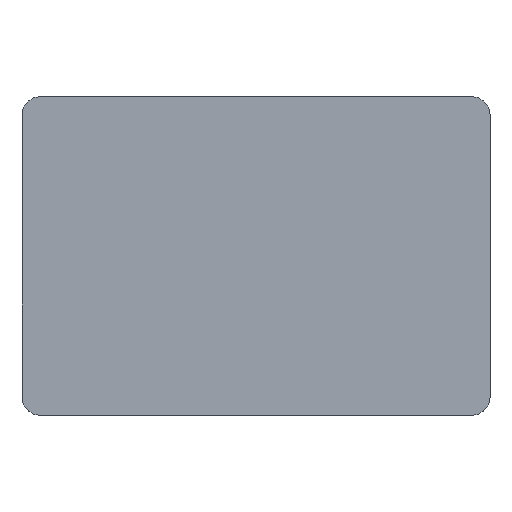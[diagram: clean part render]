
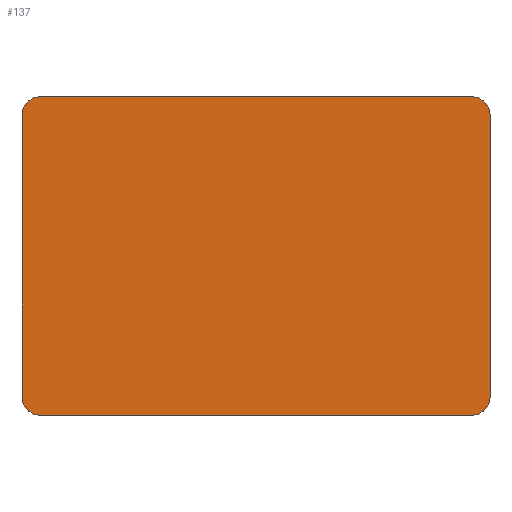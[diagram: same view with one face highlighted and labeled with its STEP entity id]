
A CAD part, top view. The second image highlights one B-rep face of the part: STEP entity #137.
In plain terms, the highlighted planar face has unit normal (0, 0, 1).
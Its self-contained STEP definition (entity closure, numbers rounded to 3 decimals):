
#21 = EDGE_CURVE('',#22,#24,#26,.T.);
#22 = VERTEX_POINT('',#23);
#23 = CARTESIAN_POINT('',(46.,-18.7,-42.8));
#24 = VERTEX_POINT('',#25);
#25 = CARTESIAN_POINT('',(46.,24.7,-42.8));
#26 = SURFACE_CURVE('',#27,(#31,#43),.PCURVE_S1.);
#27 = LINE('',#28,#29);
#28 = CARTESIAN_POINT('',(46.,-21.5,-42.8));
#29 = VECTOR('',#30,1.);
#30 = DIRECTION('',(-0.,1.,0.));
#31 = PCURVE('',#32,#37);
#32 = PLANE('',#33);
#33 = AXIS2_PLACEMENT_3D('',#34,#35,#36);
#34 = CARTESIAN_POINT('',(46.,-21.5,-45.8));
#35 = DIRECTION('',(-1.,-0.,0.));
#36 = DIRECTION('',(0.,0.,-1.));
#37 = DEFINITIONAL_REPRESENTATION('',(#38),#42);
#38 = LINE('',#39,#40);
#39 = CARTESIAN_POINT('',(-3.,-0.));
#40 = VECTOR('',#41,1.);
#41 = DIRECTION('',(-0.,-1.));
#42 = ( GEOMETRIC_REPRESENTATION_CONTEXT(2) 
PARAMETRIC_REPRESENTATION_CONTEXT() REPRESENTATION_CONTEXT('2D SPACE',''
  ) );
#43 = PCURVE('',#44,#49);
#44 = PLANE('',#45);
#45 = AXIS2_PLACEMENT_3D('',#46,#47,#48);
#46 = CARTESIAN_POINT('',(46.,-21.5,-42.8));
#47 = DIRECTION('',(0.,0.,1.));
#48 = DIRECTION('',(1.,0.,0.));
#49 = DEFINITIONAL_REPRESENTATION('',(#50),#54);
#50 = LINE('',#51,#52);
#51 = CARTESIAN_POINT('',(0.,-0.));
#52 = VECTOR('',#53,1.);
#53 = DIRECTION('',(-0.,1.));
#54 = ( GEOMETRIC_REPRESENTATION_CONTEXT(2) 
PARAMETRIC_REPRESENTATION_CONTEXT() REPRESENTATION_CONTEXT('2D SPACE',''
  ) );
#72 = CYLINDRICAL_SURFACE('',#73,2.8);
#73 = AXIS2_PLACEMENT_3D('',#74,#75,#76);
#74 = CARTESIAN_POINT('',(43.2,-18.7,-45.8));
#75 = DIRECTION('',(-0.,-0.,1.));
#76 = DIRECTION('',(1.,-0.,0.));
#126 = CYLINDRICAL_SURFACE('',#127,2.8);
#127 = AXIS2_PLACEMENT_3D('',#128,#129,#130);
#128 = CARTESIAN_POINT('',(43.2,24.7,-45.8));
#129 = DIRECTION('',(-0.,-0.,1.));
#130 = DIRECTION('',(1.,-0.,0.));
#137 = ADVANCED_FACE('',(#138),#44,.T.);
#138 = FACE_BOUND('',#139,.F.);
#139 = EDGE_LOOP('',(#140,#141,#169,#197,#226,#254,#287,#315));
#140 = ORIENTED_EDGE('',*,*,#21,.F.);
#141 = ORIENTED_EDGE('',*,*,#142,.T.);
#142 = EDGE_CURVE('',#22,#143,#145,.T.);
#143 = VERTEX_POINT('',#144);
#144 = CARTESIAN_POINT('',(43.2,-21.5,-42.8));
#145 = SURFACE_CURVE('',#146,(#151,#162),.PCURVE_S1.);
#146 = CIRCLE('',#147,2.8);
#147 = AXIS2_PLACEMENT_3D('',#148,#149,#150);
#148 = CARTESIAN_POINT('',(43.2,-18.7,-42.8));
#149 = DIRECTION('',(0.,0.,-1.));
#150 = DIRECTION('',(-0.,-1.,-0.));
#151 = PCURVE('',#44,#152);
#152 = DEFINITIONAL_REPRESENTATION('',(#153),#161);
#153 = ( BOUNDED_CURVE() B_SPLINE_CURVE(2,(#154,#155,#156,#157,#158,#159
,#160),.UNSPECIFIED.,.T.,.F.) B_SPLINE_CURVE_WITH_KNOTS((1,2,2,2,2,1),(
    -2.094,0.,2.094,4.189,6.283,
8.378),.UNSPECIFIED.) CURVE() GEOMETRIC_REPRESENTATION_ITEM() 
RATIONAL_B_SPLINE_CURVE((1.,0.5,1.,0.5,1.,0.5,1.)) REPRESENTATION_ITEM(
  '') );
#154 = CARTESIAN_POINT('',(-2.8,0.));
#155 = CARTESIAN_POINT('',(-7.65,0.));
#156 = CARTESIAN_POINT('',(-5.225,4.2));
#157 = CARTESIAN_POINT('',(-2.8,8.4));
#158 = CARTESIAN_POINT('',(-0.375,4.2));
#159 = CARTESIAN_POINT('',(2.05,0.));
#160 = CARTESIAN_POINT('',(-2.8,0.));
#161 = ( GEOMETRIC_REPRESENTATION_CONTEXT(2) 
PARAMETRIC_REPRESENTATION_CONTEXT() REPRESENTATION_CONTEXT('2D SPACE',''
  ) );
#162 = PCURVE('',#72,#163);
#163 = DEFINITIONAL_REPRESENTATION('',(#164),#168);
#164 = LINE('',#165,#166);
#165 = CARTESIAN_POINT('',(4.712,3.));
#166 = VECTOR('',#167,1.);
#167 = DIRECTION('',(-1.,0.));
#168 = ( GEOMETRIC_REPRESENTATION_CONTEXT(2) 
PARAMETRIC_REPRESENTATION_CONTEXT() REPRESENTATION_CONTEXT('2D SPACE',''
  ) );
#169 = ORIENTED_EDGE('',*,*,#170,.T.);
#170 = EDGE_CURVE('',#143,#171,#173,.T.);
#171 = VERTEX_POINT('',#172);
#172 = CARTESIAN_POINT('',(-23.2,-21.5,-42.8));
#173 = SURFACE_CURVE('',#174,(#178,#185),.PCURVE_S1.);
#174 = LINE('',#175,#176);
#175 = CARTESIAN_POINT('',(46.,-21.5,-42.8));
#176 = VECTOR('',#177,1.);
#177 = DIRECTION('',(-1.,-0.,0.));
#178 = PCURVE('',#44,#179);
#179 = DEFINITIONAL_REPRESENTATION('',(#180),#184);
#180 = LINE('',#181,#182);
#181 = CARTESIAN_POINT('',(0.,-0.));
#182 = VECTOR('',#183,1.);
#183 = DIRECTION('',(-1.,0.));
#184 = ( GEOMETRIC_REPRESENTATION_CONTEXT(2) 
PARAMETRIC_REPRESENTATION_CONTEXT() REPRESENTATION_CONTEXT('2D SPACE',''
  ) );
#185 = PCURVE('',#186,#191);
#186 = PLANE('',#187);
#187 = AXIS2_PLACEMENT_3D('',#188,#189,#190);
#188 = CARTESIAN_POINT('',(46.,-21.5,-45.8));
#189 = DIRECTION('',(-0.,1.,0.));
#190 = DIRECTION('',(0.,0.,-1.));
#191 = DEFINITIONAL_REPRESENTATION('',(#192),#196);
#192 = LINE('',#193,#194);
#193 = CARTESIAN_POINT('',(-3.,-0.));
#194 = VECTOR('',#195,1.);
#195 = DIRECTION('',(-0.,1.));
#196 = ( GEOMETRIC_REPRESENTATION_CONTEXT(2) 
PARAMETRIC_REPRESENTATION_CONTEXT() REPRESENTATION_CONTEXT('2D SPACE',''
  ) );
#197 = ORIENTED_EDGE('',*,*,#198,.F.);
#198 = EDGE_CURVE('',#199,#171,#201,.T.);
#199 = VERTEX_POINT('',#200);
#200 = CARTESIAN_POINT('',(-26.,-18.7,-42.8));
#201 = SURFACE_CURVE('',#202,(#207,#214),.PCURVE_S1.);
#202 = CIRCLE('',#203,2.8);
#203 = AXIS2_PLACEMENT_3D('',#204,#205,#206);
#204 = CARTESIAN_POINT('',(-23.2,-18.7,-42.8));
#205 = DIRECTION('',(0.,-0.,1.));
#206 = DIRECTION('',(-0.,-1.,-0.));
#207 = PCURVE('',#44,#208);
#208 = DEFINITIONAL_REPRESENTATION('',(#209),#213);
#209 = CIRCLE('',#210,2.8);
#210 = AXIS2_PLACEMENT_2D('',#211,#212);
#211 = CARTESIAN_POINT('',(-69.2,2.8));
#212 = DIRECTION('',(-0.,-1.));
#213 = ( GEOMETRIC_REPRESENTATION_CONTEXT(2) 
PARAMETRIC_REPRESENTATION_CONTEXT() REPRESENTATION_CONTEXT('2D SPACE',''
  ) );
#214 = PCURVE('',#215,#220);
#215 = CYLINDRICAL_SURFACE('',#216,2.8);
#216 = AXIS2_PLACEMENT_3D('',#217,#218,#219);
#217 = CARTESIAN_POINT('',(-23.2,-18.7,-45.8));
#218 = DIRECTION('',(-0.,-0.,1.));
#219 = DIRECTION('',(-1.,-0.,-0.));
#220 = DEFINITIONAL_REPRESENTATION('',(#221),#225);
#221 = LINE('',#222,#223);
#222 = CARTESIAN_POINT('',(-4.712,3.));
#223 = VECTOR('',#224,1.);
#224 = DIRECTION('',(1.,0.));
#225 = ( GEOMETRIC_REPRESENTATION_CONTEXT(2) 
PARAMETRIC_REPRESENTATION_CONTEXT() REPRESENTATION_CONTEXT('2D SPACE',''
  ) );
#226 = ORIENTED_EDGE('',*,*,#227,.T.);
#227 = EDGE_CURVE('',#199,#228,#230,.T.);
#228 = VERTEX_POINT('',#229);
#229 = CARTESIAN_POINT('',(-26.,24.7,-42.8));
#230 = SURFACE_CURVE('',#231,(#235,#242),.PCURVE_S1.);
#231 = LINE('',#232,#233);
#232 = CARTESIAN_POINT('',(-26.,-21.5,-42.8));
#233 = VECTOR('',#234,1.);
#234 = DIRECTION('',(-0.,1.,0.));
#235 = PCURVE('',#44,#236);
#236 = DEFINITIONAL_REPRESENTATION('',(#237),#241);
#237 = LINE('',#238,#239);
#238 = CARTESIAN_POINT('',(-72.,0.));
#239 = VECTOR('',#240,1.);
#240 = DIRECTION('',(-0.,1.));
#241 = ( GEOMETRIC_REPRESENTATION_CONTEXT(2) 
PARAMETRIC_REPRESENTATION_CONTEXT() REPRESENTATION_CONTEXT('2D SPACE',''
  ) );
#242 = PCURVE('',#243,#248);
#243 = PLANE('',#244);
#244 = AXIS2_PLACEMENT_3D('',#245,#246,#247);
#245 = CARTESIAN_POINT('',(-26.,-21.5,-45.8));
#246 = DIRECTION('',(-1.,-0.,0.));
#247 = DIRECTION('',(0.,0.,-1.));
#248 = DEFINITIONAL_REPRESENTATION('',(#249),#253);
#249 = LINE('',#250,#251);
#250 = CARTESIAN_POINT('',(-3.,-0.));
#251 = VECTOR('',#252,1.);
#252 = DIRECTION('',(-0.,-1.));
#253 = ( GEOMETRIC_REPRESENTATION_CONTEXT(2) 
PARAMETRIC_REPRESENTATION_CONTEXT() REPRESENTATION_CONTEXT('2D SPACE',''
  ) );
#254 = ORIENTED_EDGE('',*,*,#255,.T.);
#255 = EDGE_CURVE('',#228,#256,#258,.T.);
#256 = VERTEX_POINT('',#257);
#257 = CARTESIAN_POINT('',(-23.2,27.5,-42.8));
#258 = SURFACE_CURVE('',#259,(#264,#275),.PCURVE_S1.);
#259 = CIRCLE('',#260,2.8);
#260 = AXIS2_PLACEMENT_3D('',#261,#262,#263);
#261 = CARTESIAN_POINT('',(-23.2,24.7,-42.8));
#262 = DIRECTION('',(0.,0.,-1.));
#263 = DIRECTION('',(-0.,-1.,-0.));
#264 = PCURVE('',#44,#265);
#265 = DEFINITIONAL_REPRESENTATION('',(#266),#274);
#266 = ( BOUNDED_CURVE() B_SPLINE_CURVE(2,(#267,#268,#269,#270,#271,#272
,#273),.UNSPECIFIED.,.T.,.F.) B_SPLINE_CURVE_WITH_KNOTS((1,2,2,2,2,1),(
    -2.094,0.,2.094,4.189,6.283,
8.378),.UNSPECIFIED.) CURVE() GEOMETRIC_REPRESENTATION_ITEM() 
RATIONAL_B_SPLINE_CURVE((1.,0.5,1.,0.5,1.,0.5,1.)) REPRESENTATION_ITEM(
  '') );
#267 = CARTESIAN_POINT('',(-69.2,43.4));
#268 = CARTESIAN_POINT('',(-74.05,43.4));
#269 = CARTESIAN_POINT('',(-71.625,47.6));
#270 = CARTESIAN_POINT('',(-69.2,51.8));
#271 = CARTESIAN_POINT('',(-66.775,47.6));
#272 = CARTESIAN_POINT('',(-64.35,43.4));
#273 = CARTESIAN_POINT('',(-69.2,43.4));
#274 = ( GEOMETRIC_REPRESENTATION_CONTEXT(2) 
PARAMETRIC_REPRESENTATION_CONTEXT() REPRESENTATION_CONTEXT('2D SPACE',''
  ) );
#275 = PCURVE('',#276,#281);
#276 = CYLINDRICAL_SURFACE('',#277,2.8);
#277 = AXIS2_PLACEMENT_3D('',#278,#279,#280);
#278 = CARTESIAN_POINT('',(-23.2,24.7,-45.8));
#279 = DIRECTION('',(-0.,-0.,1.));
#280 = DIRECTION('',(-1.,-0.,-0.));
#281 = DEFINITIONAL_REPRESENTATION('',(#282),#286);
#282 = LINE('',#283,#284);
#283 = CARTESIAN_POINT('',(1.571,3.));
#284 = VECTOR('',#285,1.);
#285 = DIRECTION('',(-1.,0.));
#286 = ( GEOMETRIC_REPRESENTATION_CONTEXT(2) 
PARAMETRIC_REPRESENTATION_CONTEXT() REPRESENTATION_CONTEXT('2D SPACE',''
  ) );
#287 = ORIENTED_EDGE('',*,*,#288,.F.);
#288 = EDGE_CURVE('',#289,#256,#291,.T.);
#289 = VERTEX_POINT('',#290);
#290 = CARTESIAN_POINT('',(43.2,27.5,-42.8));
#291 = SURFACE_CURVE('',#292,(#296,#303),.PCURVE_S1.);
#292 = LINE('',#293,#294);
#293 = CARTESIAN_POINT('',(46.,27.5,-42.8));
#294 = VECTOR('',#295,1.);
#295 = DIRECTION('',(-1.,-0.,0.));
#296 = PCURVE('',#44,#297);
#297 = DEFINITIONAL_REPRESENTATION('',(#298),#302);
#298 = LINE('',#299,#300);
#299 = CARTESIAN_POINT('',(0.,49.));
#300 = VECTOR('',#301,1.);
#301 = DIRECTION('',(-1.,0.));
#302 = ( GEOMETRIC_REPRESENTATION_CONTEXT(2) 
PARAMETRIC_REPRESENTATION_CONTEXT() REPRESENTATION_CONTEXT('2D SPACE',''
  ) );
#303 = PCURVE('',#304,#309);
#304 = PLANE('',#305);
#305 = AXIS2_PLACEMENT_3D('',#306,#307,#308);
#306 = CARTESIAN_POINT('',(46.,27.5,-45.8));
#307 = DIRECTION('',(-0.,1.,0.));
#308 = DIRECTION('',(0.,0.,-1.));
#309 = DEFINITIONAL_REPRESENTATION('',(#310),#314);
#310 = LINE('',#311,#312);
#311 = CARTESIAN_POINT('',(-3.,-0.));
#312 = VECTOR('',#313,1.);
#313 = DIRECTION('',(-0.,1.));
#314 = ( GEOMETRIC_REPRESENTATION_CONTEXT(2) 
PARAMETRIC_REPRESENTATION_CONTEXT() REPRESENTATION_CONTEXT('2D SPACE',''
  ) );
#315 = ORIENTED_EDGE('',*,*,#316,.F.);
#316 = EDGE_CURVE('',#24,#289,#317,.T.);
#317 = SURFACE_CURVE('',#318,(#323,#330),.PCURVE_S1.);
#318 = CIRCLE('',#319,2.8);
#319 = AXIS2_PLACEMENT_3D('',#320,#321,#322);
#320 = CARTESIAN_POINT('',(43.2,24.7,-42.8));
#321 = DIRECTION('',(0.,-0.,1.));
#322 = DIRECTION('',(-0.,-1.,-0.));
#323 = PCURVE('',#44,#324);
#324 = DEFINITIONAL_REPRESENTATION('',(#325),#329);
#325 = CIRCLE('',#326,2.8);
#326 = AXIS2_PLACEMENT_2D('',#327,#328);
#327 = CARTESIAN_POINT('',(-2.8,46.2));
#328 = DIRECTION('',(-0.,-1.));
#329 = ( GEOMETRIC_REPRESENTATION_CONTEXT(2) 
PARAMETRIC_REPRESENTATION_CONTEXT() REPRESENTATION_CONTEXT('2D SPACE',''
  ) );
#330 = PCURVE('',#126,#331);
#331 = DEFINITIONAL_REPRESENTATION('',(#332),#336);
#332 = LINE('',#333,#334);
#333 = CARTESIAN_POINT('',(-1.571,3.));
#334 = VECTOR('',#335,1.);
#335 = DIRECTION('',(1.,0.));
#336 = ( GEOMETRIC_REPRESENTATION_CONTEXT(2) 
PARAMETRIC_REPRESENTATION_CONTEXT() REPRESENTATION_CONTEXT('2D SPACE',''
  ) );
